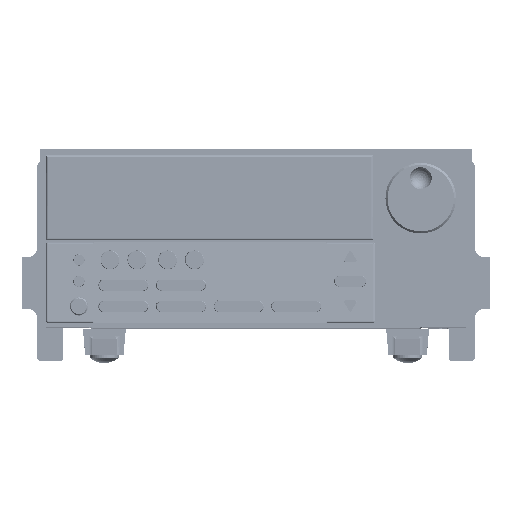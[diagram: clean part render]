
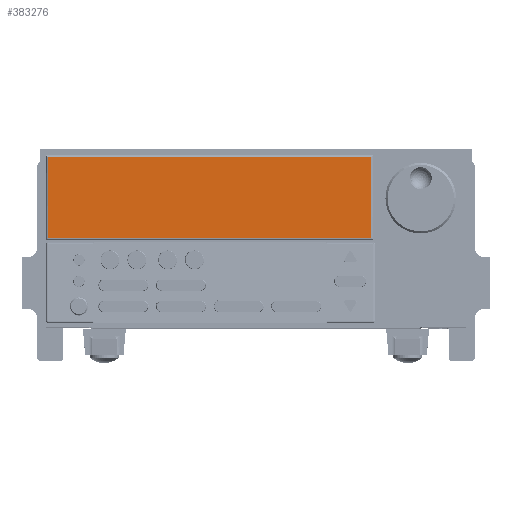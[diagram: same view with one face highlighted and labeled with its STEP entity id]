
A CAD part, top view. The second image highlights one B-rep face of the part: STEP entity #383276.
In plain terms, the highlighted planar face has unit normal (0, 0, 1).
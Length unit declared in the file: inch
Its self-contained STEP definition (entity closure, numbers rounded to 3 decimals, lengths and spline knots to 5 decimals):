
#383065=DIRECTION('',(1.,0.,0.));
#383066=VECTOR('',#383065,6.298);
#383067=CARTESIAN_POINT('',(0.035,0.035,0.093));
#383068=LINE('',#383067,#383066);
#383082=DIRECTION('',(0.,-1.,0.));
#383083=VECTOR('',#383082,1.578);
#383084=CARTESIAN_POINT('',(0.035,1.613,0.093));
#383085=LINE('',#383084,#383083);
#383108=DIRECTION('',(-1.,0.,0.));
#383109=VECTOR('',#383108,6.298);
#383110=CARTESIAN_POINT('',(6.333,1.613,0.093));
#383111=LINE('',#383110,#383109);
#383126=DIRECTION('',(0.,1.,0.));
#383127=VECTOR('',#383126,1.578);
#383128=CARTESIAN_POINT('',(6.333,0.035,0.093));
#383129=LINE('',#383128,#383127);
#383155=CARTESIAN_POINT('',(6.333,0.035,0.093));
#383156=CARTESIAN_POINT('',(6.333,1.613,0.093));
#383157=VERTEX_POINT('',#383155);
#383158=VERTEX_POINT('',#383156);
#383163=CARTESIAN_POINT('',(0.035,0.035,0.093));
#383164=VERTEX_POINT('',#383163);
#383167=CARTESIAN_POINT('',(0.035,1.613,0.093));
#383168=VERTEX_POINT('',#383167);
#383262=CARTESIAN_POINT('',(0.,0.,0.093));
#383263=DIRECTION('',(0.,0.,1.));
#383264=DIRECTION('',(1.,0.,0.));
#383265=AXIS2_PLACEMENT_3D('',#383262,#383263,#383264);
#383266=PLANE('',#383265);
#383268=ORIENTED_EDGE('',*,*,#383267,.F.);
#383270=ORIENTED_EDGE('',*,*,#383269,.F.);
#383272=ORIENTED_EDGE('',*,*,#383271,.F.);
#383273=ORIENTED_EDGE('',*,*,#383252,.F.);
#383274=EDGE_LOOP('',(#383268,#383270,#383272,#383273));
#383275=FACE_OUTER_BOUND('',#383274,.F.);
#383276=ADVANCED_FACE('',(#383275),#383266,.T.);
#383252=EDGE_CURVE('',#383164,#383157,#383068,.T.);
#383267=EDGE_CURVE('',#383168,#383164,#383085,.T.);
#383269=EDGE_CURVE('',#383158,#383168,#383111,.T.);
#383271=EDGE_CURVE('',#383157,#383158,#383129,.T.);
